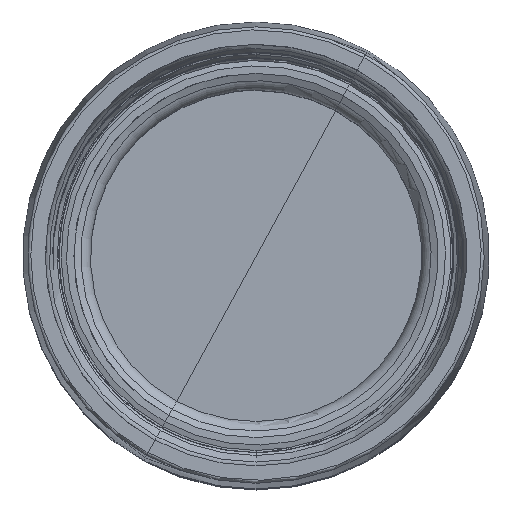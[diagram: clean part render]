
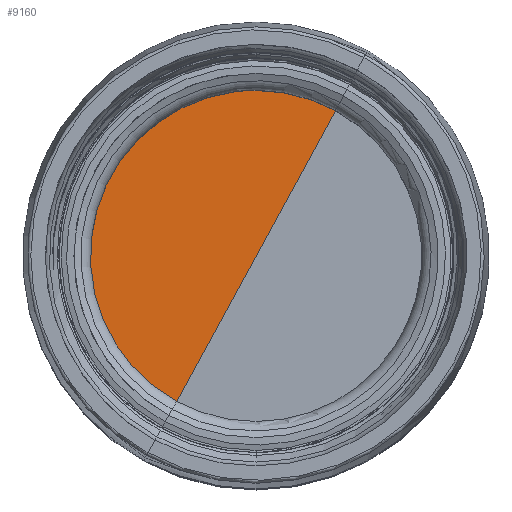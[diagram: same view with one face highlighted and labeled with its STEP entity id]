
A CAD part, top view. The second image highlights one B-rep face of the part: STEP entity #9160.
In plain terms, the highlighted planar face has unit normal (0, 0, 1).
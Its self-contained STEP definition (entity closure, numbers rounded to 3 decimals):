
#3269=DIRECTION('',(-0.479,-0.878,0.));
#3270=VECTOR('',#3269,12.8);
#3271=CARTESIAN_POINT('',(0.,21.,-192.55));
#3272=LINE('',#3271,#3270);
#3273=CARTESIAN_POINT('',(0.,21.,-192.55));
#3274=DIRECTION('',(0.,0.,1.));
#3275=DIRECTION('',(-1.,0.,0.));
#3276=AXIS2_PLACEMENT_3D('',#3273,#3274,#3275);
#3278=CARTESIAN_POINT('',(0.,21.,-192.55));
#3279=DIRECTION('',(0.,0.,1.));
#3280=DIRECTION('',(0.479,0.878,0.));
#3281=AXIS2_PLACEMENT_3D('',#3278,#3279,#3280);
#3283=DIRECTION('',(0.479,0.878,0.));
#3284=VECTOR('',#3283,12.8);
#3285=CARTESIAN_POINT('',(0.,21.,-192.55));
#3286=LINE('',#3285,#3284);
#4445=CARTESIAN_POINT('',(6.137,32.233,-192.55));
#4446=VERTEX_POINT('',#4445);
#4447=CARTESIAN_POINT('',(-6.137,9.767,-192.55));
#4449=VERTEX_POINT('',#4447);
#4451=CARTESIAN_POINT('',(-12.8,21.,-192.55));
#4452=VERTEX_POINT('',#4451);
#4453=CARTESIAN_POINT('',(0.,21.,-192.55));
#4454=VERTEX_POINT('',#4453);
#9149=CARTESIAN_POINT('',(0.,35.8,-192.55));
#9150=DIRECTION('',(0.,0.,1.));
#9151=DIRECTION('',(0.,-1.,0.));
#9152=AXIS2_PLACEMENT_3D('',#9149,#9150,#9151);
#9153=PLANE('',#9152);
#9154=ORIENTED_EDGE('',*,*,#9137,.T.);
#9155=ORIENTED_EDGE('',*,*,#9089,.F.);
#9156=ORIENTED_EDGE('',*,*,#9087,.F.);
#9157=ORIENTED_EDGE('',*,*,#9133,.F.);
#9158=EDGE_LOOP('',(#9154,#9155,#9156,#9157));
#9159=FACE_OUTER_BOUND('',#9158,.F.);
#9160=ADVANCED_FACE('',(#9159),#9153,.T.);
#3277=CIRCLE('',#3276,12.8);
#3282=CIRCLE('',#3281,12.8);
#9087=EDGE_CURVE('',#4446,#4452,#3282,.T.);
#9089=EDGE_CURVE('',#4452,#4449,#3277,.T.);
#9133=EDGE_CURVE('',#4454,#4446,#3286,.T.);
#9137=EDGE_CURVE('',#4454,#4449,#3272,.T.);
